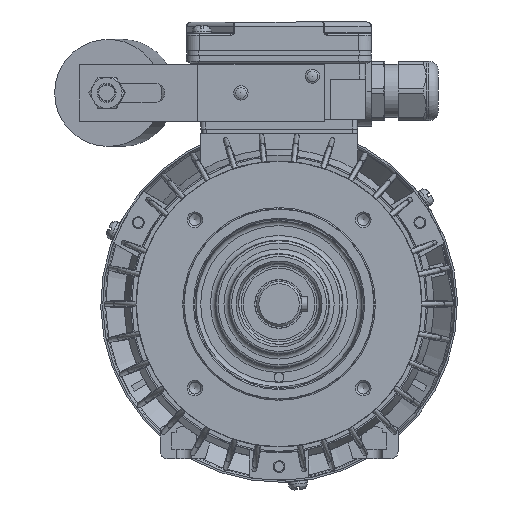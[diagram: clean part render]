
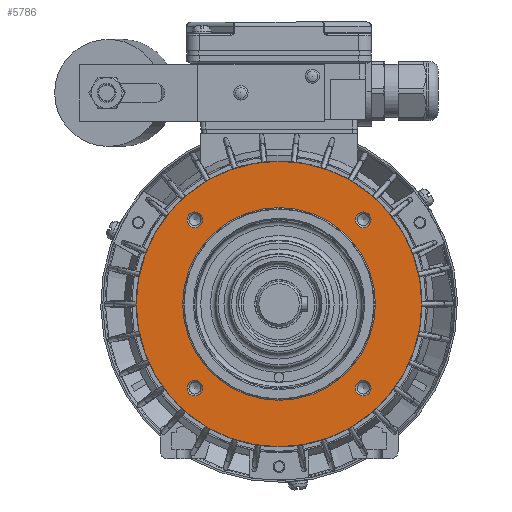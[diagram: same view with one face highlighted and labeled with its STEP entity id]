
A CAD part, left-side view. The second image highlights one B-rep face of the part: STEP entity #5786.
In plain terms, the highlighted planar face has unit normal (-1, 0, 0) as drawn and (0, -1, 0) by its records, which use the part's own axes.
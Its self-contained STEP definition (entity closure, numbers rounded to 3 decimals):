
#5786 = ADVANCED_FACE( '', ( #12220, #12221, #12222, #12223, #12224, #12225 ), #12226, .T. );
#12220 = FACE_BOUND( '', #31689, .T. );
#12221 = FACE_BOUND( '', #31690, .T. );
#12222 = FACE_BOUND( '', #31691, .T. );
#12223 = FACE_BOUND( '', #31692, .T. );
#12224 = FACE_BOUND( '', #31693, .T. );
#12225 = FACE_OUTER_BOUND( '', #31694, .T. );
#12226 = PLANE( '', #31695 );
#31689 = EDGE_LOOP( '', ( #52566 ) );
#31690 = EDGE_LOOP( '', ( #52567 ) );
#31691 = EDGE_LOOP( '', ( #52568 ) );
#31692 = EDGE_LOOP( '', ( #52569 ) );
#31693 = EDGE_LOOP( '', ( #52570 ) );
#31694 = EDGE_LOOP( '', ( #52571 ) );
#31695 = AXIS2_PLACEMENT_3D( '', #52572, #52573, #52574 );
#52566 = ORIENTED_EDGE( '', *, *, #62385, .T. );
#52567 = ORIENTED_EDGE( '', *, *, #67877, .T. );
#52568 = ORIENTED_EDGE( '', *, *, #67878, .T. );
#52569 = ORIENTED_EDGE( '', *, *, #67879, .T. );
#52570 = ORIENTED_EDGE( '', *, *, #67880, .T. );
#52571 = ORIENTED_EDGE( '', *, *, #67822, .T. );
#52572 = CARTESIAN_POINT( '', ( 0., 3., 40. ) );
#52573 = DIRECTION( '', ( 0., -1., 0. ) );
#52574 = DIRECTION( '', ( 0., 0., -1. ) );
#62385 = EDGE_CURVE( '', #72993, #72993, #72994, .F. );
#67822 = EDGE_CURVE( '', #81388, #81388, #81389, .T. );
#67877 = EDGE_CURVE( '', #81460, #81460, #81461, .F. );
#67878 = EDGE_CURVE( '', #81462, #81462, #81463, .F. );
#67879 = EDGE_CURVE( '', #81464, #81464, #81465, .F. );
#67880 = EDGE_CURVE( '', #81466, #81466, #81467, .F. );
#72993 = VERTEX_POINT( '', #88134 );
#72994 = CIRCLE( '', #88135, 3.3 );
#81388 = VERTEX_POINT( '', #109565 );
#81389 = CIRCLE( '', #109566, 60. );
#81460 = VERTEX_POINT( '', #109686 );
#81461 = CIRCLE( '', #109687, 3.3 );
#81462 = VERTEX_POINT( '', #109688 );
#81463 = CIRCLE( '', #109689, 3.3 );
#81464 = VERTEX_POINT( '', #109690 );
#81465 = CIRCLE( '', #109691, 3.3 );
#81466 = VERTEX_POINT( '', #109692 );
#81467 = CIRCLE( '', #109693, 40.5 );
#88134 = CARTESIAN_POINT( '', ( -35.355, 3., -38.655 ) );
#88135 = AXIS2_PLACEMENT_3D( '', #116277, #116278, #116279 );
#109565 = CARTESIAN_POINT( '', ( 0., 3., -60. ) );
#109566 = AXIS2_PLACEMENT_3D( '', #122610, #122611, #122612 );
#109686 = CARTESIAN_POINT( '', ( 35.355, 3., -38.655 ) );
#109687 = AXIS2_PLACEMENT_3D( '', #122723, #122724, #122725 );
#109688 = CARTESIAN_POINT( '', ( 35.355, 3., 32.055 ) );
#109689 = AXIS2_PLACEMENT_3D( '', #122726, #122727, #122728 );
#109690 = CARTESIAN_POINT( '', ( -35.355, 3., 32.055 ) );
#109691 = AXIS2_PLACEMENT_3D( '', #122729, #122730, #122731 );
#109692 = CARTESIAN_POINT( '', ( 0., 3., -40.5 ) );
#109693 = AXIS2_PLACEMENT_3D( '', #122732, #122733, #122734 );
#116277 = CARTESIAN_POINT( '', ( -35.355, 3., -35.355 ) );
#116278 = DIRECTION( '', ( 0., -1., 0. ) );
#116279 = DIRECTION( '', ( 0., 0., -1. ) );
#122610 = CARTESIAN_POINT( '', ( 0., 3., 0. ) );
#122611 = DIRECTION( '', ( 0., -1., 0. ) );
#122612 = DIRECTION( '', ( 0., 0., -1. ) );
#122723 = CARTESIAN_POINT( '', ( 35.355, 3., -35.355 ) );
#122724 = DIRECTION( '', ( 0., -1., 0. ) );
#122725 = DIRECTION( '', ( 0., 0., -1. ) );
#122726 = CARTESIAN_POINT( '', ( 35.355, 3., 35.355 ) );
#122727 = DIRECTION( '', ( 0., -1., 0. ) );
#122728 = DIRECTION( '', ( 0., 0., -1. ) );
#122729 = CARTESIAN_POINT( '', ( -35.355, 3., 35.355 ) );
#122730 = DIRECTION( '', ( 0., -1., 0. ) );
#122731 = DIRECTION( '', ( 0., 0., -1. ) );
#122732 = CARTESIAN_POINT( '', ( 0., 3., 0. ) );
#122733 = DIRECTION( '', ( 0., -1., 0. ) );
#122734 = DIRECTION( '', ( 0., 0., -1. ) );
